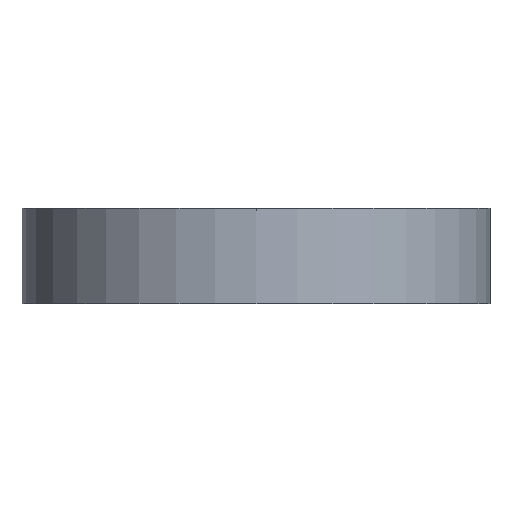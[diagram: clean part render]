
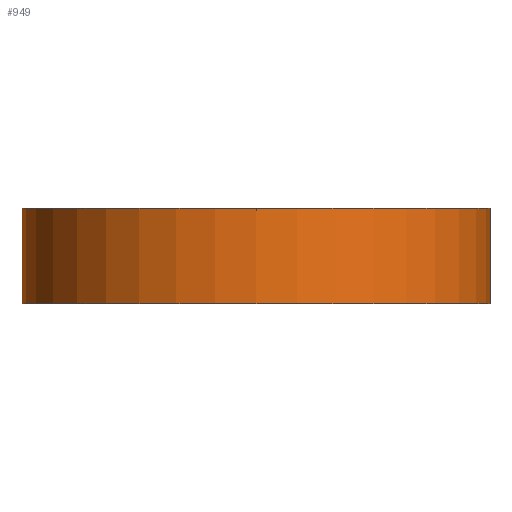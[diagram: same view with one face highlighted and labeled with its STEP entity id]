
A CAD part, front view. The second image highlights one B-rep face of the part: STEP entity #949.
In plain terms, the highlighted cylindrical face has radius 39.37 mm (diameter 78.74 mm), a partial arc.
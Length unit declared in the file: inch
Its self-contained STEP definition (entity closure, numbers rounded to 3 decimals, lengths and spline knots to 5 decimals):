
#15 = DIRECTION ( 'NONE',  ( 1., 0., 0. ) ) ;
#242 = CIRCLE ( 'NONE', #927, 1.55 ) ;
#294 = CARTESIAN_POINT ( 'NONE',  ( 1.55, 0., 0.62992 ) ) ;
#397 = DIRECTION ( 'NONE',  ( -1., 0., 0. ) ) ;
#428 = EDGE_CURVE ( 'NONE', #5219, #2666, #4410, .T. ) ;
#557 = ORIENTED_EDGE ( 'NONE', *, *, #1226, .T. ) ;
#927 = AXIS2_PLACEMENT_3D ( 'NONE', #2456, #3613, #15 ) ;
#949 = ADVANCED_FACE ( 'NONE', ( #4860 ), #4886, .T. ) ;
#1020 = DIRECTION ( 'NONE',  ( 1., 0., 0. ) ) ;
#1201 = CARTESIAN_POINT ( 'NONE',  ( 0., 0., 0.62992 ) ) ;
#1217 = VERTEX_POINT ( 'NONE', #294 ) ;
#1226 = EDGE_CURVE ( 'NONE', #2666, #4122, #242, .T. ) ;
#1537 = EDGE_CURVE ( 'NONE', #5219, #1217, #4933, .T. ) ;
#1610 = CARTESIAN_POINT ( 'NONE',  ( 1.55, 0., 0.62992 ) ) ;
#1988 = ORIENTED_EDGE ( 'NONE', *, *, #428, .T. ) ;
#2008 = LINE ( 'NONE', #1610, #5116 ) ;
#2055 = ORIENTED_EDGE ( 'NONE', *, *, #3338, .F. ) ;
#2098 = VECTOR ( 'NONE', #3198, 39.37008 ) ;
#2161 = ORIENTED_EDGE ( 'NONE', *, *, #1537, .F. ) ;
#2429 = DIRECTION ( 'NONE',  ( 0., 0., -1. ) ) ;
#2456 = CARTESIAN_POINT ( 'NONE',  ( 0., 0., 0. ) ) ;
#2666 = VERTEX_POINT ( 'NONE', #4411 ) ;
#2892 = DIRECTION ( 'NONE',  ( 0., 0., -1. ) ) ;
#3011 = CARTESIAN_POINT ( 'NONE',  ( -1.55, 0., 0.62992 ) ) ;
#3198 = DIRECTION ( 'NONE',  ( 0., 0., -1. ) ) ;
#3338 = EDGE_CURVE ( 'NONE', #1217, #4122, #2008, .T. ) ;
#3428 = DIRECTION ( 'NONE',  ( 0., 0., 1. ) ) ;
#3542 = CARTESIAN_POINT ( 'NONE',  ( 1.55, 0., 0. ) ) ;
#3613 = DIRECTION ( 'NONE',  ( 0., 0., 1. ) ) ;
#4122 = VERTEX_POINT ( 'NONE', #3542 ) ;
#4266 = CARTESIAN_POINT ( 'NONE',  ( 0., 0., 0.62992 ) ) ;
#4388 = AXIS2_PLACEMENT_3D ( 'NONE', #4266, #3428, #1020 ) ;
#4410 = LINE ( 'NONE', #5201, #2098 ) ;
#4411 = CARTESIAN_POINT ( 'NONE',  ( -1.55, 0., 0. ) ) ;
#4860 = FACE_OUTER_BOUND ( 'NONE', #5075, .T. ) ;
#4886 = CYLINDRICAL_SURFACE ( 'NONE', #4916, 1.55 ) ;
#4916 = AXIS2_PLACEMENT_3D ( 'NONE', #1201, #2429, #397 ) ;
#4933 = CIRCLE ( 'NONE', #4388, 1.55 ) ;
#5075 = EDGE_LOOP ( 'NONE', ( #2055, #2161, #1988, #557 ) ) ;
#5116 = VECTOR ( 'NONE', #2892, 39.37008 ) ;
#5201 = CARTESIAN_POINT ( 'NONE',  ( -1.55, 0., 0.62992 ) ) ;
#5219 = VERTEX_POINT ( 'NONE', #3011 ) ;
